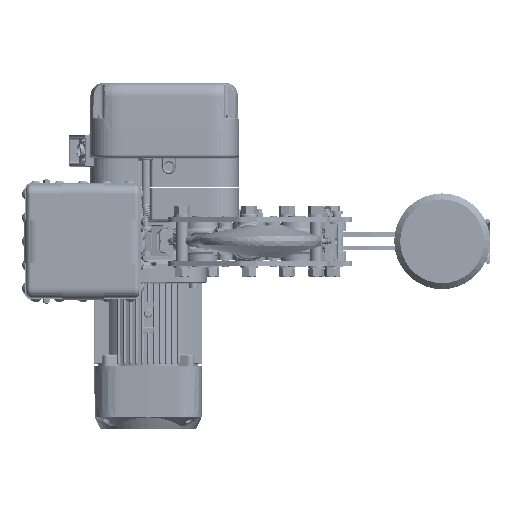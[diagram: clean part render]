
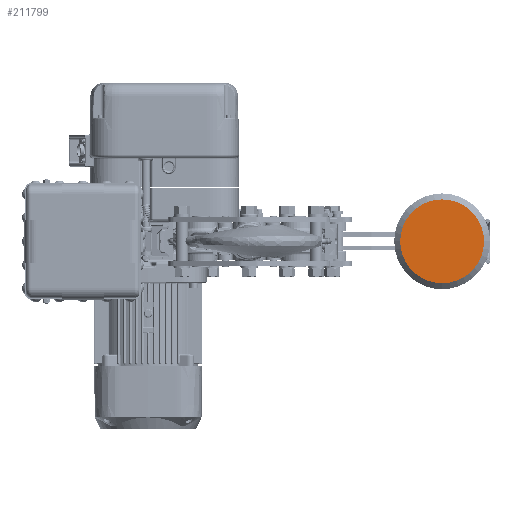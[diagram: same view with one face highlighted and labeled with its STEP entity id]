
A CAD part, front view. The second image highlights one B-rep face of the part: STEP entity #211799.
In plain terms, the highlighted planar face has unit normal (0, -1, 0).
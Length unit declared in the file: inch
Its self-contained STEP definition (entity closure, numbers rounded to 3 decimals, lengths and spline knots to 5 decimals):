
#20928 = VERTEX_POINT ( 'NONE', #110489 ) ;
#25991 = ORIENTED_EDGE ( 'NONE', *, *, #210621, .T. ) ;
#42746 = CIRCLE ( 'NONE', #221141, 3.5 ) ;
#71232 = DIRECTION ( 'NONE',  ( 0., 1., 0. ) ) ;
#73669 = CARTESIAN_POINT ( 'NONE',  ( 0., -5., 0. ) ) ;
#74917 = FACE_OUTER_BOUND ( 'NONE', #113971, .T. ) ;
#76091 = DIRECTION ( 'NONE',  ( 0., -1., 0. ) ) ;
#86407 = CARTESIAN_POINT ( 'NONE',  ( 0., -5., -3.5 ) ) ;
#93516 = DIRECTION ( 'NONE',  ( 0., 0., 1. ) ) ;
#110489 = CARTESIAN_POINT ( 'NONE',  ( 0., -5., 3.5 ) ) ;
#110831 = DIRECTION ( 'NONE',  ( 0., 0., 1. ) ) ;
#113971 = EDGE_LOOP ( 'NONE', ( #25991, #142194 ) ) ;
#114538 = PLANE ( 'NONE',  #146351 ) ;
#142194 = ORIENTED_EDGE ( 'NONE', *, *, #239944, .T. ) ;
#146351 = AXIS2_PLACEMENT_3D ( 'NONE', #241270, #71232, #93516 ) ;
#153973 = CIRCLE ( 'NONE', #186259, 3.5 ) ;
#186259 = AXIS2_PLACEMENT_3D ( 'NONE', #227515, #76091, #231137 ) ;
#191422 = DIRECTION ( 'NONE',  ( 0., -1., 0. ) ) ;
#210621 = EDGE_CURVE ( 'NONE', #20928, #238200, #153973, .T. ) ;
#211799 = ADVANCED_FACE ( 'NONE', ( #74917 ), #114538, .F. ) ;
#221141 = AXIS2_PLACEMENT_3D ( 'NONE', #73669, #191422, #110831 ) ;
#227515 = CARTESIAN_POINT ( 'NONE',  ( 0., -5., 0. ) ) ;
#231137 = DIRECTION ( 'NONE',  ( 0., 0., 1. ) ) ;
#238200 = VERTEX_POINT ( 'NONE', #86407 ) ;
#239944 = EDGE_CURVE ( 'NONE', #238200, #20928, #42746, .T. ) ;
#241270 = CARTESIAN_POINT ( 'NONE',  ( 0., -5., 0. ) ) ;
